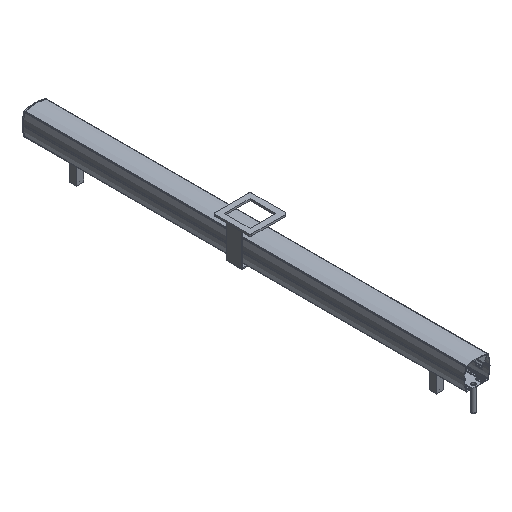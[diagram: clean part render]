
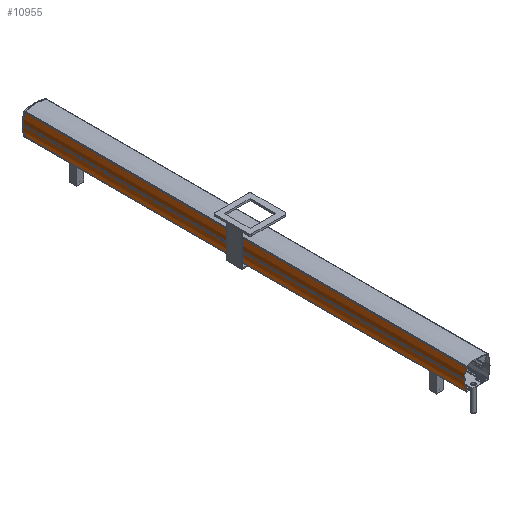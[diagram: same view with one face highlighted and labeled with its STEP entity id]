
A CAD part, isometric view. The second image highlights one B-rep face of the part: STEP entity #10955.
In plain terms, the highlighted cylindrical face has radius 92.5 mm (diameter 185 mm), a partial arc.
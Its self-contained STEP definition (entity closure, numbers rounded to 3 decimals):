
#109 = CYLINDRICAL_SURFACE ( 'NONE', #4669, 92.5 ) ;
#110 = FACE_OUTER_BOUND ( 'NONE', #16241, .T. ) ;
#980 = CIRCLE ( 'NONE', #12373, 92.5 ) ;
#3154 = DIRECTION ( 'NONE',  ( 0., 0., 1. ) ) ;
#3159 = DIRECTION ( 'NONE',  ( 0., 1., 0. ) ) ;
#3166 = CARTESIAN_POINT ( 'NONE',  ( 58.194, 0., -2.222 ) ) ;
#3328 = DIRECTION ( 'NONE',  ( 0., -1., 0. ) ) ;
#3329 = CARTESIAN_POINT ( 'NONE',  ( -29.788, 1196., 26.333 ) ) ;
#3375 = DIRECTION ( 'NONE',  ( 0., -1., 0. ) ) ;
#3376 = CARTESIAN_POINT ( 'NONE',  ( -29.996, 1196., -30.127 ) ) ;
#3876 = ORIENTED_EDGE ( 'NONE', *, *, #11729, .T. ) ;
#3877 = ORIENTED_EDGE ( 'NONE', *, *, #4371, .F. ) ;
#3878 = ORIENTED_EDGE ( 'NONE', *, *, #11749, .F. ) ;
#3879 = ORIENTED_EDGE ( 'NONE', *, *, #11802, .T. ) ;
#4371 = EDGE_CURVE ( 'NONE', #25020, #25105, #6924, .T. ) ;
#4442 = AXIS2_PLACEMENT_3D ( 'NONE', #22977, #22976, #22975 ) ;
#4669 = AXIS2_PLACEMENT_3D ( 'NONE', #20899, #20898, #20897 ) ;
#6924 = CIRCLE ( 'NONE', #4442, 92.5 ) ;
#9512 = CARTESIAN_POINT ( 'NONE',  ( -29.996, 1196., -30.127 ) ) ;
#9630 = CARTESIAN_POINT ( 'NONE',  ( -29.788, 0., 26.333 ) ) ;
#9670 = CARTESIAN_POINT ( 'NONE',  ( -29.996, 0., -30.127 ) ) ;
#9679 = CARTESIAN_POINT ( 'NONE',  ( -29.788, 1196., 26.333 ) ) ;
#10955 = ADVANCED_FACE ( 'NONE', ( #110 ), #109, .T. ) ;
#11729 = EDGE_CURVE ( 'NONE', #25020, #25100, #25185, .T. ) ;
#11749 = EDGE_CURVE ( 'NONE', #25105, #25080, #25139, .T. ) ;
#11802 = EDGE_CURVE ( 'NONE', #25100, #25080, #980, .T. ) ;
#12373 = AXIS2_PLACEMENT_3D ( 'NONE', #3166, #3159, #3154 ) ;
#16241 = EDGE_LOOP ( 'NONE', ( #3879, #3878, #3877, #3876 ) ) ;
#20897 = DIRECTION ( 'NONE',  ( 0., 0., -1. ) ) ;
#20898 = DIRECTION ( 'NONE',  ( 0., -1., 0. ) ) ;
#20899 = CARTESIAN_POINT ( 'NONE',  ( 58.194, 1196., -2.222 ) ) ;
#22975 = DIRECTION ( 'NONE',  ( 0., 0., 1. ) ) ;
#22976 = DIRECTION ( 'NONE',  ( 0., 1., 0. ) ) ;
#22977 = CARTESIAN_POINT ( 'NONE',  ( 58.194, 1196., -2.222 ) ) ;
#25020 = VERTEX_POINT ( 'NONE', #9512 ) ;
#25080 = VERTEX_POINT ( 'NONE', #9630 ) ;
#25100 = VERTEX_POINT ( 'NONE', #9670 ) ;
#25105 = VERTEX_POINT ( 'NONE', #9679 ) ;
#25138 = VECTOR ( 'NONE', #3328, 1000. ) ;
#25139 = LINE ( 'NONE', #3329, #25138 ) ;
#25183 = VECTOR ( 'NONE', #3375, 1000. ) ;
#25185 = LINE ( 'NONE', #3376, #25183 ) ;
